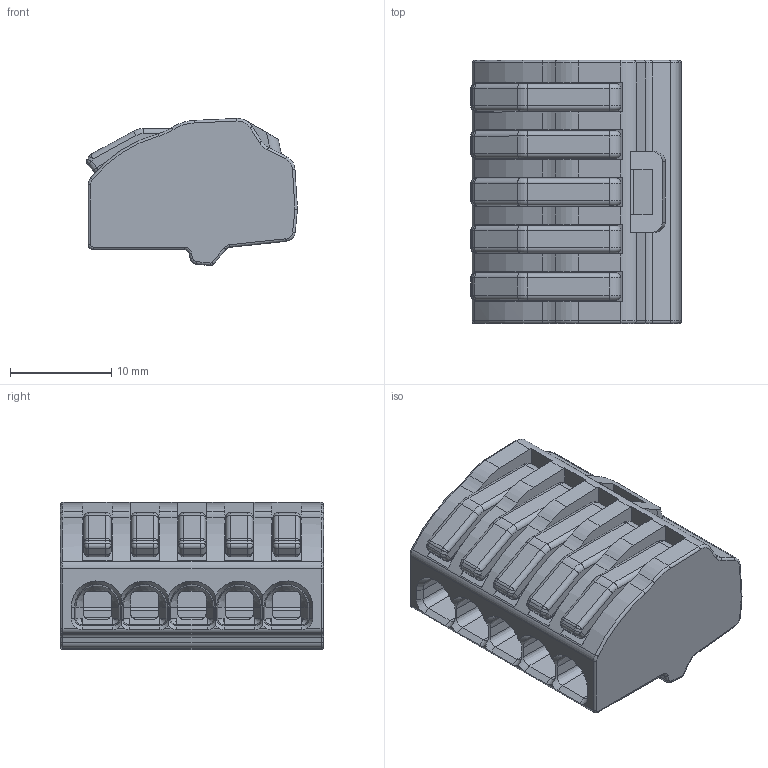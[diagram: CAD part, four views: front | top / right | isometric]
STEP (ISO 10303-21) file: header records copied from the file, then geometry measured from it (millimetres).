
FILE_DESCRIPTION(/* description */ ('Unknown'),/* implementation_level */ '2;1');
FILE_NAME(/* name */ '4505',/* time_stamp */ '2024-05-29T11:03:49+02:00',/* author */ ('Unknown'),/* organization */ ('Unknown'),/* preprocessor_version */ 'ST-DEVELOPER v16.7',/* originating_system */ 'DEX',/* authorisation */ $);
FILE_SCHEMA (('AUTOMOTIVE_DESIGN {1 0 10303 214 3 1 1}'));
Length unit declared in the file: millimetre
Products named in the file (3): 4505; Palanca 4500
Assembly tree (6 placements, depth 2):
  4505
    4505
    Palanca 4500  x5
Bounding box: 20.84 x 26 x 14.54 mm (x, y, z)
Volume: 2955.2 mm3; surface area: 4910.7 mm2
Topology: 6 solids, 6 shells, 514 faces, 1299 edges, 744 vertices
Faces by surface type: plane 210, cylinder 183, torus 46, cone 45, sphere 30
Entity records: 10530 total; most frequent: CARTESIAN_POINT 1944, DIRECTION 1829, ORIENTED_EDGE 1782, EDGE_CURVE 891, AXIS2_PLACEMENT_3D 638, LINE 553, VECTOR 553, VERTEX_POINT 544
